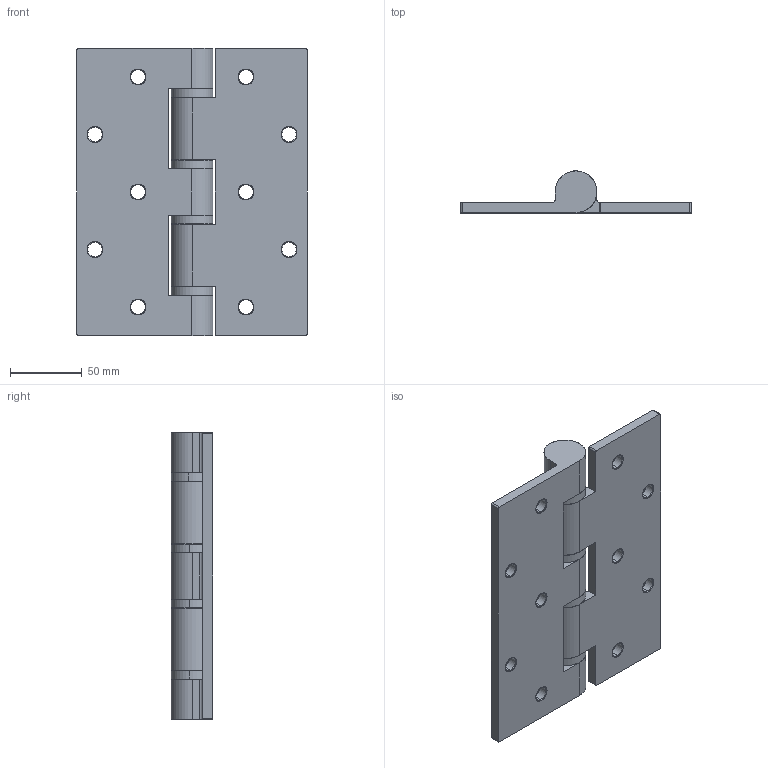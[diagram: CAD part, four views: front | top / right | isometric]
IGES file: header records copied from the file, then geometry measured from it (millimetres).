
Start section: SolidWorks IGES file using analytic representation for surfaces
Global section: file name: F:\尚坤工业存档\SK2--铰链系列\SK2-1001-1\SK2-1001-1.IGS; native system: SolidWorks 2018; preprocessor: SolidWorks 2018; author: admin; date: 190506.160500; units: millimetre
Bounding box: 160 x 29 x 200 mm (x, y, z)
Surface area: 105223 mm2 (no closed solid volume)
Topology: 0 solids, 0 shells, 143 faces, 2824 edges, 2824 vertices
Faces by surface type: revolution 104, bspline 39
